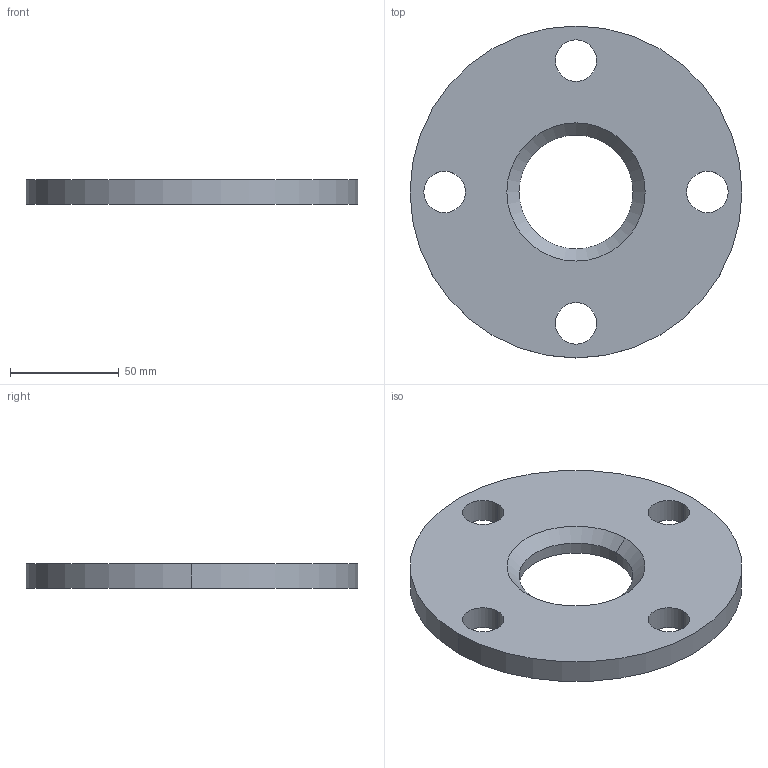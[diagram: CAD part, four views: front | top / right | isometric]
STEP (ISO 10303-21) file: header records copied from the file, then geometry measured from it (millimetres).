
FILE_DESCRIPTION (( 'STEP AP214' ), '1' );
FILE_NAME ('E38SL 2.0 REV6.STEP', '2025-07-02T19:11:27', ( '' ), ( '' ), 'SwSTEP 2.0', 'SolidWorks 2022', '' );
FILE_SCHEMA (( 'AUTOMOTIVE_DESIGN' ));
Length unit declared in the file: inch
Products named in the file (1): E38SL 2.0 REV6
Bounding box: 152.4 x 152.4 x 11.11 mm (x, y, z)
Volume: 163420.8 mm3; surface area: 39214.2 mm2
Topology: 1 solids, 1 shells, 16 faces, 40 edges, 26 vertices
Faces by surface type: cylinder 12, cone 2, plane 2
Entity records: 554 total; most frequent: DIRECTION 100, CARTESIAN_POINT 83, ORIENTED_EDGE 80, AXIS2_PLACEMENT_3D 43, EDGE_CURVE 40, CIRCLE 26, EDGE_LOOP 26, VERTEX_POINT 26
